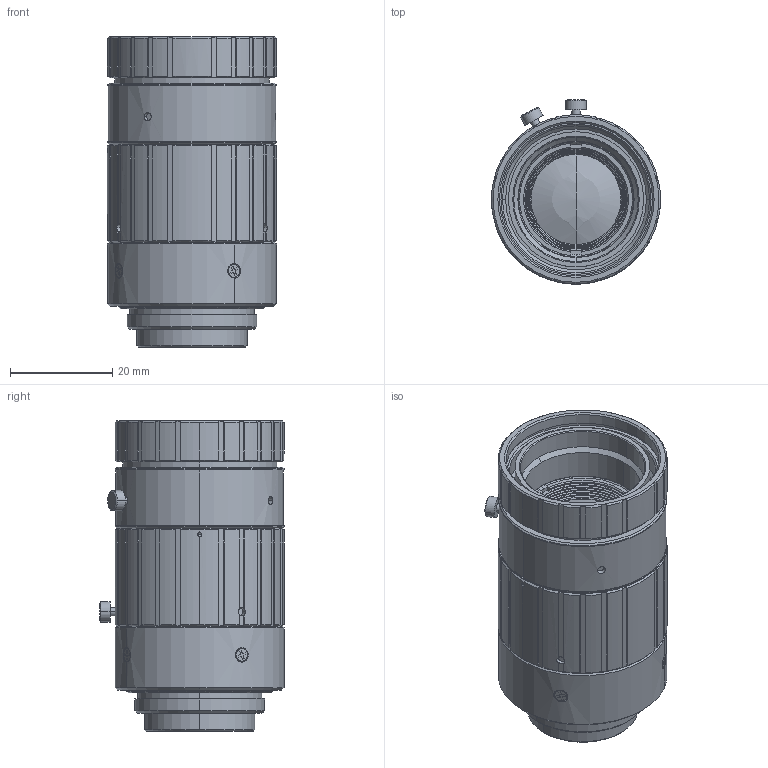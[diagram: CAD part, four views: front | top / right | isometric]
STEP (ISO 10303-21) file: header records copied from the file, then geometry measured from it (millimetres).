
FILE_DESCRIPTION(('CoCreate Modeling STEP Export'),'2;1');
FILE_NAME('HF3520-12M_3D-outline.STEP','2022-05-27T16:30:54',(''),(''),'CoCreate Modeling STEP processor for AP214 (Solid Model)','CoCreate Modeling 17.0 01-Apr-2010 (C) Parametric Technology GmbH','');
FILE_SCHEMA(('AUTOMOTIVE_DESIGN { 1 0 10303 214 1 1 1 1 }'));
Length unit declared in the file: millimetre
Products named in the file (2): HF3520-12M
Assembly tree (1 placements, depth 2):
  HF3520-12M
    HF3520-12M
Bounding box: 33 x 36 x 60.6 mm (x, y, z)
Volume: 36778.4 mm3; surface area: 11536.5 mm2
Topology: 1 solids, 1 shells, 468 faces, 1296 edges, 852 vertices
Faces by surface type: plane 227, cylinder 139, cone 90, bspline 8, sphere 4
Entity records: 15687 total; most frequent: CARTESIAN_POINT 4730, ORIENTED_EDGE 2580, DIRECTION 1933, EDGE_CURVE 1290, VERTEX_POINT 852, VECTOR 721, LINE 721, AXIS2_PLACEMENT_3D 606
